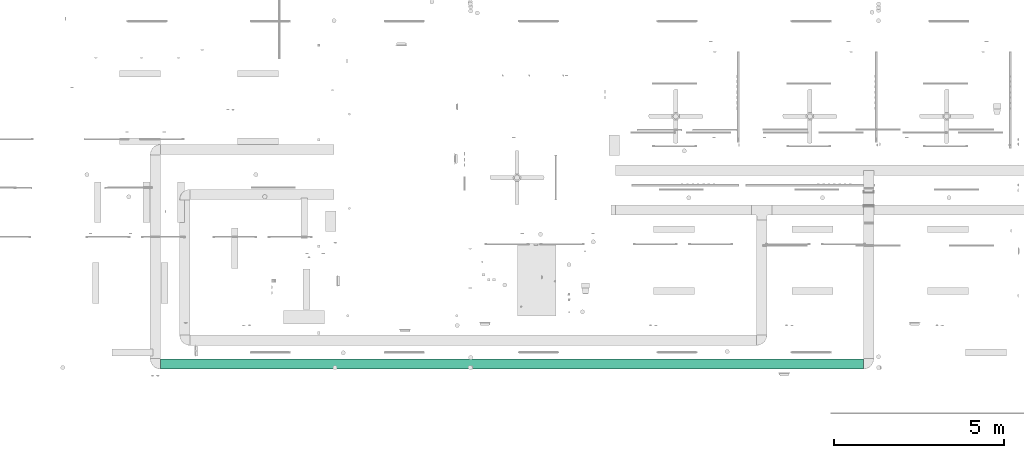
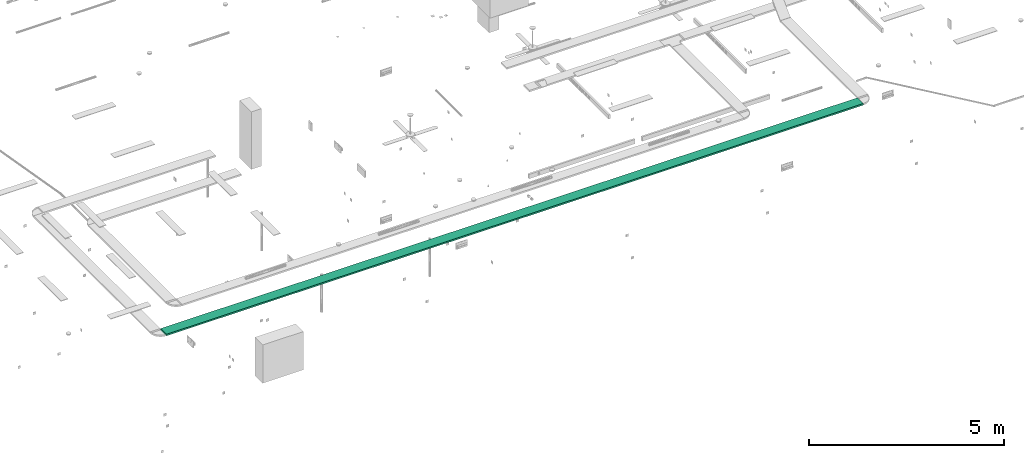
# One storey, part 10 of 153: 1 flow segment.
"""IFC2X3 building model written with IfcOpenShell, lengths in metres."""

from ifc_helpers import new_model, entity, si_unit, converted_unit, derived_unit, direction, frame, origin, origin_2d_with_axis, place, context, subcontext, project, spatial, rectangle, extrude, type_object, element, save


model = new_model("IFC2X3")

# Units and contexts
model_context = context("Model", 3, precision=1e-05, world=origin(), true_north=direction((6.12303176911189e-17, 1.0)))
body_context = subcontext(model_context, "Body", "Model", "MODEL_VIEW")
ifc_project = project(units=[si_unit("LENGTHUNIT", "METRE"), si_unit("AREAUNIT", "SQUARE_METRE"), si_unit("VOLUMEUNIT", "CUBIC_METRE"), converted_unit("PLANEANGLEUNIT", "DEGREE", entity("IfcRatioMeasure", 0.0174532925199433), si_unit("PLANEANGLEUNIT", "RADIAN"), dimensions=[0, 0, 0, 0, 0, 0, 0]), si_unit("MASSUNIT", "GRAM", prefix="KILO"), derived_unit("MASSDENSITYUNIT", [(si_unit("MASSUNIT", "GRAM", prefix="KILO"), 1), (si_unit("LENGTHUNIT", "METRE"), -3)]), si_unit("TIMEUNIT", "SECOND"), si_unit("FREQUENCYUNIT", "HERTZ"), si_unit("THERMODYNAMICTEMPERATUREUNIT", "DEGREE_CELSIUS"), derived_unit("THERMALTRANSMITTANCEUNIT", [(si_unit("MASSUNIT", "GRAM", prefix="KILO"), 1), (si_unit("THERMODYNAMICTEMPERATUREUNIT", "KELVIN"), -1), (si_unit("TIMEUNIT", "SECOND"), -3)]), derived_unit("VOLUMETRICFLOWRATEUNIT", [(si_unit("LENGTHUNIT", "METRE"), 3), (si_unit("TIMEUNIT", "SECOND"), -1)]), si_unit("ELECTRICCURRENTUNIT", "AMPERE"), si_unit("ELECTRICVOLTAGEUNIT", "VOLT"), si_unit("POWERUNIT", "WATT"), si_unit("FORCEUNIT", "NEWTON"), si_unit("ILLUMINANCEUNIT", "LUX"), si_unit("LUMINOUSFLUXUNIT", "LUMEN"), si_unit("LUMINOUSINTENSITYUNIT", "CANDELA"), derived_unit("USERDEFINED", [(si_unit("MASSUNIT", "GRAM", prefix="KILO"), -1), (si_unit("LENGTHUNIT", "METRE"), -2), (si_unit("TIMEUNIT", "SECOND"), 3), (si_unit("LUMINOUSFLUXUNIT", "LUMEN"), 1)]), derived_unit("LINEARVELOCITYUNIT", [(si_unit("LENGTHUNIT", "METRE"), 1), (si_unit("TIMEUNIT", "SECOND"), -1)]), si_unit("PRESSUREUNIT", "PASCAL"), derived_unit("USERDEFINED", [(si_unit("LENGTHUNIT", "METRE"), -2), (si_unit("MASSUNIT", "GRAM", prefix="KILO"), 1), (si_unit("TIMEUNIT", "SECOND"), -2)])], contexts=[model_context])

# Site, building, storey
site_placement = place(None, origin())
site = spatial("IfcSite", under=ifc_project, at=site_placement, Name="Default", CompositionType="ELEMENT")
building_placement = place(site_placement, origin())
building = spatial("IfcBuilding", under=site, at=building_placement, CompositionType="ELEMENT")
storey_placement = place(building_placement, frame((0.0, 0.0, -4.62)))
storey = spatial("IfcBuildingStorey", under=building, at=storey_placement, Name="S02", CompositionType="ELEMENT", Elevation=-4.62)

# Flow segment
cable_carrier_segment_type = type_object("IfcCableCarrierSegmentType", Name="Cable Tray with Fittings:Chemins de câbles en treillis_Chemins de câbles en treillis", PredefinedType="NOTDEFINED")
flow_segment_placement = place(building_placement, frame((0.0, 0.0, -4.62)))
element("IfcFlowSegment", 1, at=flow_segment_placement, inside=storey, type_object=cable_carrier_segment_type, Name="Cable Tray with Fittings:Chemins de câbles en treillis_Chemins de câbles en treillis", ObjectType="Cable Tray with Fittings:Chemins de câbles en treillis_Chemins de câbles en treillis", context=body_context, shape_type="SweptSolid", body=[
    extrude(rectangle(XDim=20.6547241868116, YDim=0.300000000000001, at=origin_2d_with_axis()), frame((46.7170062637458, -194.390915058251, 3.54999980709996)), (0.0, 0.0, 1.0), 0.05),
])

save(model, "model.ifc")
